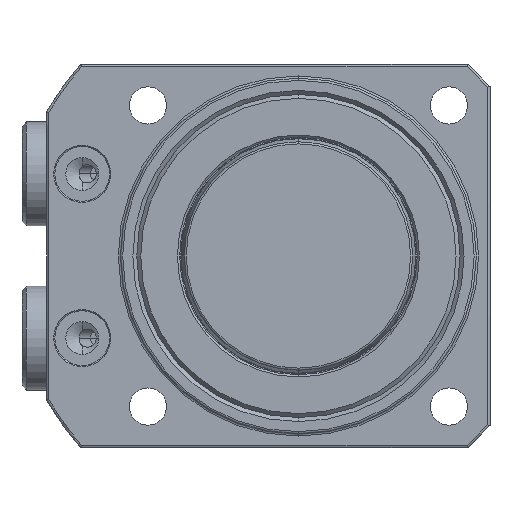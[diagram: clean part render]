
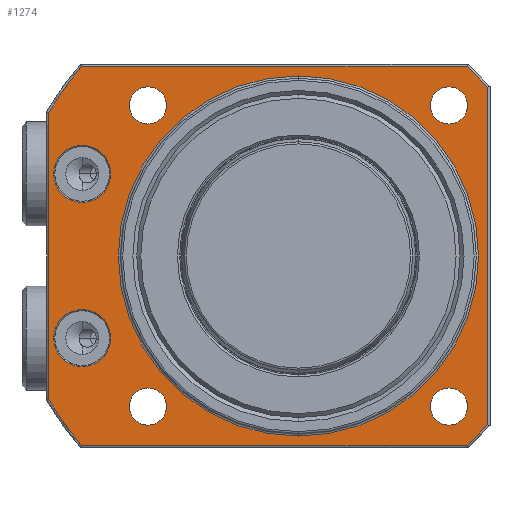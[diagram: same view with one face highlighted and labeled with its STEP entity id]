
A CAD part, front view. The second image highlights one B-rep face of the part: STEP entity #1274.
In plain terms, the highlighted planar face has unit normal (0, -1, 0) as drawn and (1, 0, 0) by its records, which use the part's own axes.
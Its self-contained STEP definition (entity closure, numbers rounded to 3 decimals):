
#991=PLANE('',#4657);
#1037=FACE_BOUND('',#1755,.T.);
#1038=FACE_BOUND('',#1756,.T.);
#1039=FACE_BOUND('',#1757,.T.);
#1040=FACE_BOUND('',#1758,.T.);
#1041=FACE_BOUND('',#1759,.T.);
#1042=FACE_BOUND('',#1760,.T.);
#1043=FACE_BOUND('',#1761,.T.);
#1044=FACE_BOUND('',#1762,.T.);
#1274=ADVANCED_FACE('',(#1037,#1038,#1039,#1040,#1041,#1042,#1043,#1044),
#991,.F.);
#1755=EDGE_LOOP('',(#2887,#2888));
#1756=EDGE_LOOP('',(#2889,#2890));
#1757=EDGE_LOOP('',(#2891,#2892,#2893,#2894,#2895,#2896,#2897,#2898));
#1758=EDGE_LOOP('',(#2899,#2900));
#1759=EDGE_LOOP('',(#2901,#2902));
#1760=EDGE_LOOP('',(#2903,#2904));
#1761=EDGE_LOOP('',(#2905,#2906));
#1762=EDGE_LOOP('',(#2907,#2908));
#2029=LINE('',#7122,#2230);
#2030=LINE('',#7125,#2231);
#2031=LINE('',#7127,#2232);
#2032=LINE('',#7129,#2233);
#2033=LINE('',#7133,#2234);
#2034=LINE('',#7137,#2235);
#2230=VECTOR('',#5552,1.);
#2231=VECTOR('',#5553,1.);
#2232=VECTOR('',#5554,1.);
#2233=VECTOR('',#5555,1.);
#2234=VECTOR('',#5558,1.);
#2235=VECTOR('',#5561,1.);
#2887=ORIENTED_EDGE('',*,*,#3858,.T.);
#2888=ORIENTED_EDGE('',*,*,#3997,.T.);
#2889=ORIENTED_EDGE('',*,*,#3854,.T.);
#2890=ORIENTED_EDGE('',*,*,#3998,.T.);
#2891=ORIENTED_EDGE('',*,*,#3999,.T.);
#2892=ORIENTED_EDGE('',*,*,#4000,.T.);
#2893=ORIENTED_EDGE('',*,*,#4001,.T.);
#2894=ORIENTED_EDGE('',*,*,#4002,.T.);
#2895=ORIENTED_EDGE('',*,*,#4003,.T.);
#2896=ORIENTED_EDGE('',*,*,#4004,.T.);
#2897=ORIENTED_EDGE('',*,*,#4005,.T.);
#2898=ORIENTED_EDGE('',*,*,#4006,.T.);
#2899=ORIENTED_EDGE('',*,*,#4007,.T.);
#2900=ORIENTED_EDGE('',*,*,#3864,.T.);
#2901=ORIENTED_EDGE('',*,*,#4008,.T.);
#2902=ORIENTED_EDGE('',*,*,#3950,.T.);
#2903=ORIENTED_EDGE('',*,*,#4009,.T.);
#2904=ORIENTED_EDGE('',*,*,#3958,.T.);
#2905=ORIENTED_EDGE('',*,*,#4010,.T.);
#2906=ORIENTED_EDGE('',*,*,#3966,.T.);
#2907=ORIENTED_EDGE('',*,*,#4011,.T.);
#2908=ORIENTED_EDGE('',*,*,#3974,.T.);
#3447=VERTEX_POINT('',#6594);
#3448=VERTEX_POINT('',#6596);
#3451=VERTEX_POINT('',#6603);
#3452=VERTEX_POINT('',#6605);
#3457=VERTEX_POINT('',#6618);
#3458=VERTEX_POINT('',#6619);
#3527=VERTEX_POINT('',#6964);
#3528=VERTEX_POINT('',#6965);
#3535=VERTEX_POINT('',#6991);
#3536=VERTEX_POINT('',#6992);
#3543=VERTEX_POINT('',#7018);
#3544=VERTEX_POINT('',#7019);
#3551=VERTEX_POINT('',#7045);
#3552=VERTEX_POINT('',#7046);
#3563=VERTEX_POINT('',#7123);
#3564=VERTEX_POINT('',#7124);
#3565=VERTEX_POINT('',#7126);
#3566=VERTEX_POINT('',#7128);
#3567=VERTEX_POINT('',#7130);
#3568=VERTEX_POINT('',#7132);
#3569=VERTEX_POINT('',#7134);
#3570=VERTEX_POINT('',#7136);
#3854=EDGE_CURVE('',#3448,#3447,#4230,.T.);
#3858=EDGE_CURVE('',#3452,#3451,#4232,.T.);
#3864=EDGE_CURVE('',#3457,#3458,#4237,.T.);
#3950=EDGE_CURVE('',#3527,#3528,#4274,.T.);
#3958=EDGE_CURVE('',#3535,#3536,#4277,.T.);
#3966=EDGE_CURVE('',#3543,#3544,#4280,.T.);
#3974=EDGE_CURVE('',#3551,#3552,#4283,.T.);
#3997=EDGE_CURVE('',#3451,#3452,#4293,.T.);
#3998=EDGE_CURVE('',#3447,#3448,#4294,.T.);
#3999=EDGE_CURVE('',#3563,#3564,#2029,.T.);
#4000=EDGE_CURVE('',#3564,#3565,#2030,.T.);
#4001=EDGE_CURVE('',#3565,#3566,#2031,.T.);
#4002=EDGE_CURVE('',#3566,#3567,#2032,.T.);
#4003=EDGE_CURVE('',#3567,#3568,#4295,.T.);
#4004=EDGE_CURVE('',#3568,#3569,#2033,.T.);
#4005=EDGE_CURVE('',#3569,#3570,#4296,.T.);
#4006=EDGE_CURVE('',#3570,#3563,#2034,.T.);
#4007=EDGE_CURVE('',#3458,#3457,#4297,.T.);
#4008=EDGE_CURVE('',#3528,#3527,#4298,.T.);
#4009=EDGE_CURVE('',#3536,#3535,#4299,.T.);
#4010=EDGE_CURVE('',#3544,#3543,#4300,.T.);
#4011=EDGE_CURVE('',#3552,#3551,#4301,.T.);
#4230=CIRCLE('',#4548,5.2);
#4232=CIRCLE('',#4551,5.2);
#4237=CIRCLE('',#4558,32.9);
#4274=CIRCLE('',#4617,3.4);
#4277=CIRCLE('',#4622,3.4);
#4280=CIRCLE('',#4627,3.4);
#4283=CIRCLE('',#4632,3.4);
#4293=CIRCLE('',#4648,5.2);
#4294=CIRCLE('',#4649,5.2);
#4295=CIRCLE('',#4650,52.6);
#4296=CIRCLE('',#4651,52.6);
#4297=CIRCLE('',#4652,32.9);
#4298=CIRCLE('',#4653,3.4);
#4299=CIRCLE('',#4654,3.4);
#4300=CIRCLE('',#4655,3.4);
#4301=CIRCLE('',#4656,3.4);
#4548=AXIS2_PLACEMENT_3D('',#6595,#5287,#5288);
#4551=AXIS2_PLACEMENT_3D('',#6604,#5295,#5296);
#4558=AXIS2_PLACEMENT_3D('',#6617,#5310,#5311);
#4617=AXIS2_PLACEMENT_3D('',#6963,#5468,#5469);
#4622=AXIS2_PLACEMENT_3D('',#6990,#5482,#5483);
#4627=AXIS2_PLACEMENT_3D('',#7017,#5496,#5497);
#4632=AXIS2_PLACEMENT_3D('',#7044,#5510,#5511);
#4648=AXIS2_PLACEMENT_3D('',#7120,#5548,#5549);
#4649=AXIS2_PLACEMENT_3D('',#7121,#5550,#5551);
#4650=AXIS2_PLACEMENT_3D('',#7131,#5556,#5557);
#4651=AXIS2_PLACEMENT_3D('',#7135,#5559,#5560);
#4652=AXIS2_PLACEMENT_3D('',#7138,#5562,#5563);
#4653=AXIS2_PLACEMENT_3D('',#7139,#5564,#5565);
#4654=AXIS2_PLACEMENT_3D('',#7140,#5566,#5567);
#4655=AXIS2_PLACEMENT_3D('',#7141,#5568,#5569);
#4656=AXIS2_PLACEMENT_3D('',#7142,#5570,#5571);
#4657=AXIS2_PLACEMENT_3D('',#7143,#5572,#5573);
#5287=DIRECTION('',(-1.,0.,0.));
#5288=DIRECTION('',(0.,0.,1.));
#5295=DIRECTION('',(-1.,0.,0.));
#5296=DIRECTION('',(0.,0.,1.));
#5310=DIRECTION('',(-1.,0.,0.));
#5311=DIRECTION('',(0.,0.,1.));
#5468=DIRECTION('',(-1.,0.,0.));
#5469=DIRECTION('',(0.,0.,1.));
#5482=DIRECTION('',(-1.,0.,0.));
#5483=DIRECTION('',(0.,0.,1.));
#5496=DIRECTION('',(-1.,0.,0.));
#5497=DIRECTION('',(0.,0.,1.));
#5510=DIRECTION('',(-1.,0.,0.));
#5511=DIRECTION('',(0.,0.,1.));
#5548=DIRECTION('',(-1.,0.,0.));
#5549=DIRECTION('',(0.,0.,1.));
#5550=DIRECTION('',(-1.,0.,0.));
#5551=DIRECTION('',(0.,0.,1.));
#5552=DIRECTION('',(0.,0.707,0.707));
#5553=DIRECTION('',(0.,0.,1.));
#5554=DIRECTION('',(0.,-0.707,0.707));
#5555=DIRECTION('',(0.,-1.,0.));
#5556=DIRECTION('',(1.,0.,0.));
#5557=DIRECTION('',(0.,0.,1.));
#5558=DIRECTION('',(0.,0.,-1.));
#5559=DIRECTION('',(1.,0.,0.));
#5560=DIRECTION('',(0.,0.,1.));
#5561=DIRECTION('',(0.,1.,0.));
#5562=DIRECTION('',(-1.,0.,0.));
#5563=DIRECTION('',(0.,0.,1.));
#5564=DIRECTION('',(-1.,0.,0.));
#5565=DIRECTION('',(0.,0.,1.));
#5566=DIRECTION('',(-1.,0.,0.));
#5567=DIRECTION('',(0.,0.,1.));
#5568=DIRECTION('',(-1.,0.,0.));
#5569=DIRECTION('',(0.,0.,1.));
#5570=DIRECTION('',(-1.,0.,0.));
#5571=DIRECTION('',(0.,0.,1.));
#5572=DIRECTION('',(-1.,0.,0.));
#5573=DIRECTION('',(0.,0.,-1.));
#6594=CARTESIAN_POINT('',(0.,-39.5,20.2));
#6595=CARTESIAN_POINT('',(0.,-39.5,15.));
#6596=CARTESIAN_POINT('',(0.,-39.5,9.8));
#6603=CARTESIAN_POINT('',(0.,-39.5,-9.8));
#6604=CARTESIAN_POINT('',(0.,-39.5,-15.));
#6605=CARTESIAN_POINT('',(0.,-39.5,-20.2));
#6617=CARTESIAN_POINT('',(0.,0.,0.));
#6618=CARTESIAN_POINT('',(0.,0.,-32.9));
#6619=CARTESIAN_POINT('',(0.,0.,32.9));
#6963=CARTESIAN_POINT('',(0.,27.5,27.5));
#6964=CARTESIAN_POINT('',(0.,27.5,24.1));
#6965=CARTESIAN_POINT('',(0.,27.5,30.9));
#6990=CARTESIAN_POINT('',(0.,27.5,-27.5));
#6991=CARTESIAN_POINT('',(0.,27.5,-30.9));
#6992=CARTESIAN_POINT('',(0.,27.5,-24.1));
#7017=CARTESIAN_POINT('',(0.,-27.5,-27.5));
#7018=CARTESIAN_POINT('',(0.,-27.5,-30.9));
#7019=CARTESIAN_POINT('',(0.,-27.5,-24.1));
#7044=CARTESIAN_POINT('',(0.,-27.5,27.5));
#7045=CARTESIAN_POINT('',(0.,-27.5,24.1));
#7046=CARTESIAN_POINT('',(0.,-27.5,30.9));
#7120=CARTESIAN_POINT('',(0.,-39.5,-15.));
#7121=CARTESIAN_POINT('',(0.,-39.5,15.));
#7122=CARTESIAN_POINT('',(0.,34.717,-30.717));
#7123=CARTESIAN_POINT('',(0.,30.834,-34.6));
#7124=CARTESIAN_POINT('',(0.,34.6,-30.834));
#7125=CARTESIAN_POINT('',(0.,34.6,31.));
#7126=CARTESIAN_POINT('',(0.,34.6,30.834));
#7127=CARTESIAN_POINT('',(0.,30.717,34.717));
#7128=CARTESIAN_POINT('',(0.,30.834,34.6));
#7129=CARTESIAN_POINT('',(0.,-39.799,34.6));
#7130=CARTESIAN_POINT('',(0.,-39.618,34.6));
#7131=CARTESIAN_POINT('',(0.,0.,0.));
#7132=CARTESIAN_POINT('',(0.,-45.6,26.218));
#7133=CARTESIAN_POINT('',(0.,-45.6,-26.325));
#7134=CARTESIAN_POINT('',(0.,-45.6,-26.218));
#7135=CARTESIAN_POINT('',(0.,0.,0.));
#7136=CARTESIAN_POINT('',(0.,-39.618,-34.6));
#7137=CARTESIAN_POINT('',(0.,31.,-34.6));
#7138=CARTESIAN_POINT('',(0.,0.,0.));
#7139=CARTESIAN_POINT('',(0.,27.5,27.5));
#7140=CARTESIAN_POINT('',(0.,27.5,-27.5));
#7141=CARTESIAN_POINT('',(0.,-27.5,-27.5));
#7142=CARTESIAN_POINT('',(0.,-27.5,27.5));
#7143=CARTESIAN_POINT('',(0.,0.,0.));
